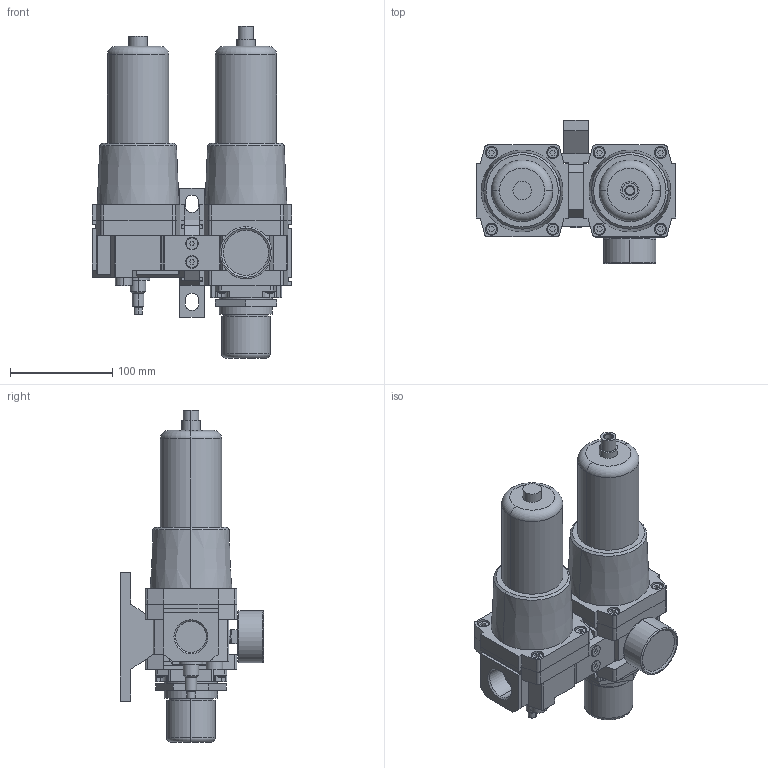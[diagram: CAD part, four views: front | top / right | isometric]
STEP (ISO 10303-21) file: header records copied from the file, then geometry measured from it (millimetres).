
FILE_DESCRIPTION (( 'STEP AP203' ), '1' );
FILE_NAME ('FRL500-10M-D.STEP', '2021-06-24T14:35:45', ( '' ), ( '' ), 'SwSTEP 2.0', 'SolidWorks 2019', '' );
FILE_SCHEMA (( 'CONFIG_CONTROL_DESIGN' ));
Length unit declared in the file: millimetre
Products named in the file (1): FRL500-10M-D
Bounding box: 195.5 x 140 x 325 mm (x, y, z)
Volume: 2396343.3 mm3; surface area: 288125.8 mm2
Topology: 26 solids, 26 shells, 856 faces, 2028 edges, 1304 vertices
Faces by surface type: plane 456, cylinder 272, cone 110, torus 10, sphere 8
Entity records: 24887 total; most frequent: DIRECTION 4478, CARTESIAN_POINT 4307, ORIENTED_EDGE 4056, EDGE_CURVE 2028, AXIS2_PLACEMENT_3D 1603, VERTEX_POINT 1304, VECTOR 1272, LINE 1272
